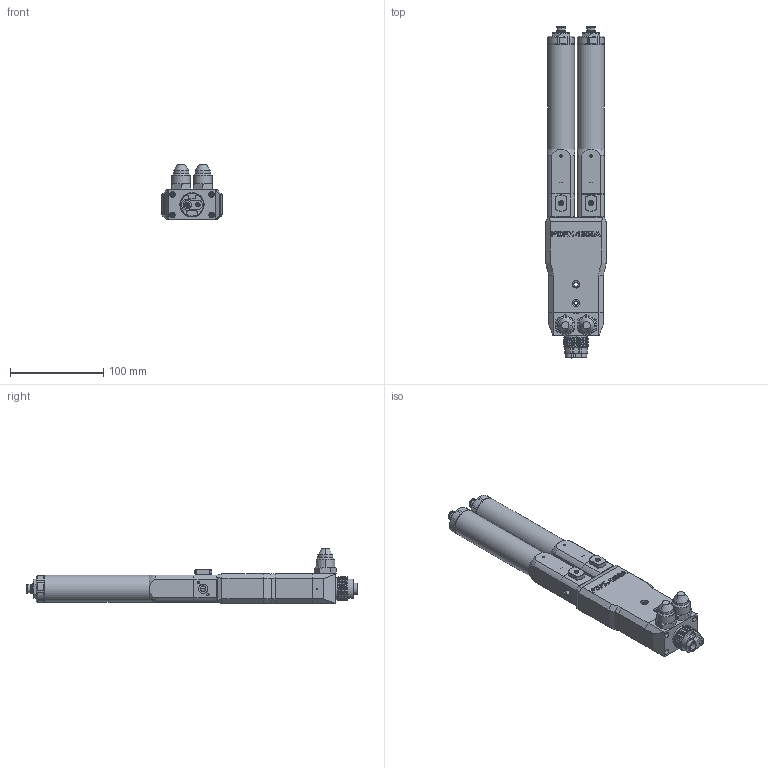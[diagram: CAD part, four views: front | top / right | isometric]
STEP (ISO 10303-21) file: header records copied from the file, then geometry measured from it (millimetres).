
FILE_DESCRIPTION (( 'STEP AP214' ), '1' );
FILE_NAME ('PDPM-1500-500FB.STEP', '2024-10-11T12:33:50', ( '' ), ( '' ), 'SwSTEP 2.0', 'SolidWorks 2024', '' );
FILE_SCHEMA (( 'AUTOMOTIVE_DESIGN' ));
Length unit declared in the file: millimetre
Products named in the file (1): PDPM-1500-500FB
Bounding box: 65 x 356 x 59.3 mm (x, y, z)
Volume: 527691.3 mm3; surface area: 123161.8 mm2
Topology: 12 solids, 12 shells, 1503 faces, 3789 edges, 2412 vertices
Faces by surface type: plane 765, cylinder 437, cone 270, torus 12, bspline 11, sphere 8
Full cylindrical faces by diameter (mm): 29 x2
Entity records: 52358 total; most frequent: CARTESIAN_POINT 16383, ORIENTED_EDGE 7506, DIRECTION 7363, EDGE_CURVE 3753, AXIS2_PLACEMENT_3D 2622, VERTEX_POINT 2412, LINE 2119, VECTOR 2119
